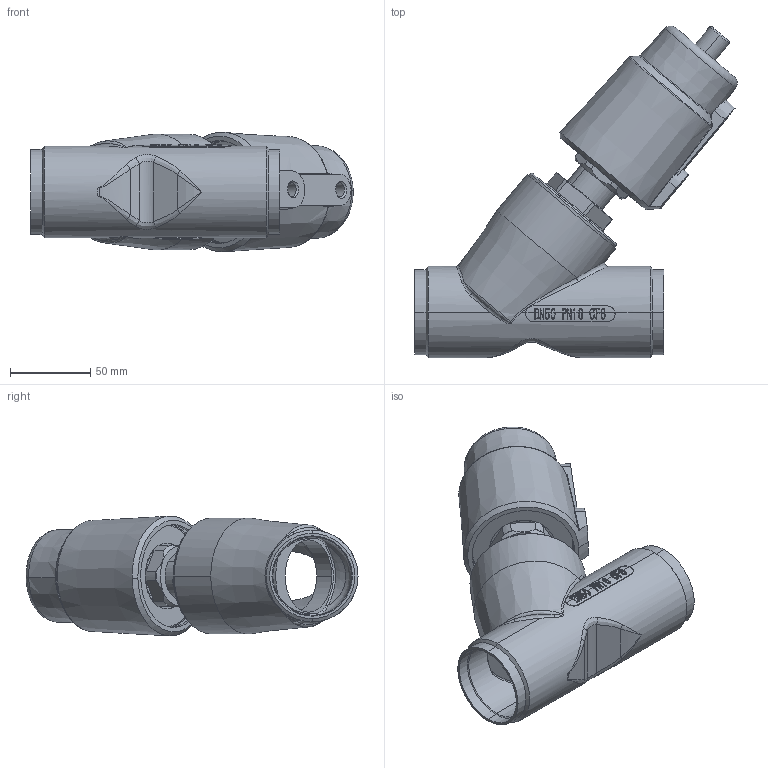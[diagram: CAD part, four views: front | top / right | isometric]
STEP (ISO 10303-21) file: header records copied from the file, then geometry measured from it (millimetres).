
FILE_DESCRIPTION (( 'STEP AP203' ), '1' );
FILE_NAME ('11850-2梓袧爾諉6350褒概.STEP', '2019-07-18T06:42:59', ( 'User' ), ( 'china' ), 'SwSTEP 2.0', 'SolidWorks 2017', '' );
FILE_SCHEMA (( 'CONFIG_CONTROL_DESIGN' ));
Length unit declared in the file: millimetre
Products named in the file (11): 6350蟀諉; 63傷裔; 6350綠僅1.5 53腔褒概; 63詰芠; 400011弝敦; 11850-2梓袧爾諉6350褒概
Assembly tree (5 placements, depth 2):
  6350蟀諉
  63傷裔
  63詰芠
  400011弝敦
  11850-2梓袧爾諉6350褒概
    6350綠僅1.5 53腔褒概
    6350蟀諉
    63傷裔
    63詰芠
    400011弝敦
Bounding box: 200.54 x 206.49 x 74.48 mm (x, y, z)
Volume: 348401.2 mm3; surface area: 155555 mm2
Topology: 5 solids, 5 shells, 609 faces, 1570 edges, 997 vertices
Faces by surface type: bspline 241, cylinder 142, plane 116, cone 66, torus 44
Entity records: 45151 total; most frequent: CARTESIAN_POINT 31335, ORIENTED_EDGE 3128, DIRECTION 1970, EDGE_CURVE 1564, VERTEX_POINT 997, AXIS2_PLACEMENT_3D 828, B_SPLINE_CURVE_WITH_KNOTS 778, EDGE_LOOP 655
